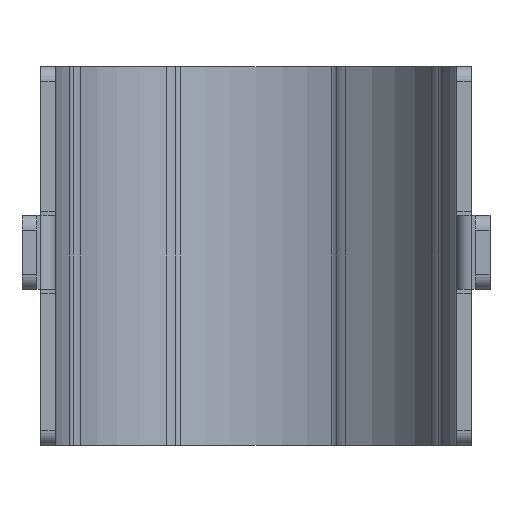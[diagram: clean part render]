
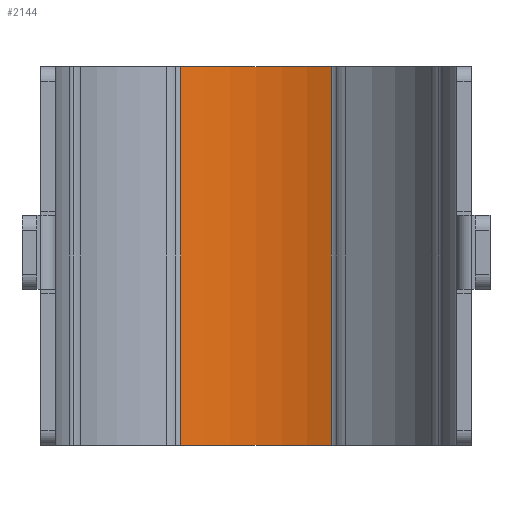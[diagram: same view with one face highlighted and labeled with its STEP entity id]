
A CAD part, left-side view. The second image highlights one B-rep face of the part: STEP entity #2144.
In plain terms, the highlighted cylindrical face has radius 27 mm (diameter 54 mm), a partial arc.
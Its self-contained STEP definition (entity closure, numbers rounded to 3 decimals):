
#123=DIRECTION('',(0.,0.,1.));
#124=VECTOR('',#123,51.);
#125=CARTESIAN_POINT('',(402.04,-10.099,12.));
#126=LINE('',#125,#124);
#141=CARTESIAN_POINT('',(377.,0.,12.));
#142=DIRECTION('',(0.,0.,-1.));
#143=DIRECTION('',(0.927,0.374,0.));
#144=AXIS2_PLACEMENT_3D('',#141,#142,#143);
#146=CARTESIAN_POINT('',(377.,0.,12.));
#147=DIRECTION('',(0.,0.,-1.));
#148=DIRECTION('',(1.,0.,0.));
#149=AXIS2_PLACEMENT_3D('',#146,#147,#148);
#161=DIRECTION('',(0.,0.,1.));
#162=VECTOR('',#161,51.);
#163=CARTESIAN_POINT('',(402.04,10.099,12.));
#164=LINE('',#163,#162);
#165=CARTESIAN_POINT('',(377.,0.,63.));
#166=DIRECTION('',(0.,0.,1.));
#167=DIRECTION('',(0.927,-0.374,0.));
#168=AXIS2_PLACEMENT_3D('',#165,#166,#167);
#170=CARTESIAN_POINT('',(377.,0.,63.));
#171=DIRECTION('',(0.,0.,1.));
#172=DIRECTION('',(1.,0.,0.));
#173=AXIS2_PLACEMENT_3D('',#170,#171,#172);
#1509=CARTESIAN_POINT('',(402.04,-10.099,63.));
#1510=VERTEX_POINT('',#1509);
#1511=CARTESIAN_POINT('',(402.04,-10.099,12.));
#1512=VERTEX_POINT('',#1511);
#1513=CARTESIAN_POINT('',(402.04,10.099,12.));
#1514=CARTESIAN_POINT('',(404.,0.,12.));
#1515=VERTEX_POINT('',#1513);
#1516=VERTEX_POINT('',#1514);
#1521=CARTESIAN_POINT('',(404.,0.,63.));
#1522=VERTEX_POINT('',#1521);
#1523=CARTESIAN_POINT('',(402.04,10.099,63.));
#1524=VERTEX_POINT('',#1523);
#2128=CARTESIAN_POINT('',(377.,0.,80.));
#2129=DIRECTION('',(0.,0.,1.));
#2130=DIRECTION('',(-1.,0.,0.));
#2131=AXIS2_PLACEMENT_3D('',#2128,#2129,#2130);
#2132=CYLINDRICAL_SURFACE('',#2131,27.);
#2134=ORIENTED_EDGE('',*,*,#2133,.F.);
#2136=ORIENTED_EDGE('',*,*,#2135,.F.);
#2137=ORIENTED_EDGE('',*,*,#2091,.F.);
#2138=ORIENTED_EDGE('',*,*,#2116,.F.);
#2139=ORIENTED_EDGE('',*,*,#2114,.F.);
#2141=ORIENTED_EDGE('',*,*,#2140,.T.);
#2142=EDGE_LOOP('',(#2134,#2136,#2137,#2138,#2139,#2141));
#2143=FACE_OUTER_BOUND('',#2142,.F.);
#2144=ADVANCED_FACE('',(#2143),#2132,.F.);
#145=CIRCLE('',#144,27.);
#150=CIRCLE('',#149,27.);
#169=CIRCLE('',#168,27.);
#174=CIRCLE('',#173,27.);
#2091=EDGE_CURVE('',#1512,#1510,#126,.T.);
#2114=EDGE_CURVE('',#1515,#1516,#145,.T.);
#2116=EDGE_CURVE('',#1516,#1512,#150,.T.);
#2133=EDGE_CURVE('',#1522,#1524,#174,.T.);
#2135=EDGE_CURVE('',#1510,#1522,#169,.T.);
#2140=EDGE_CURVE('',#1515,#1524,#164,.T.);
